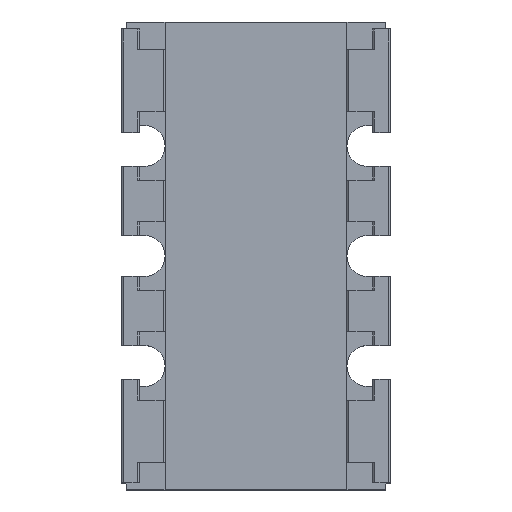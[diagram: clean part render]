
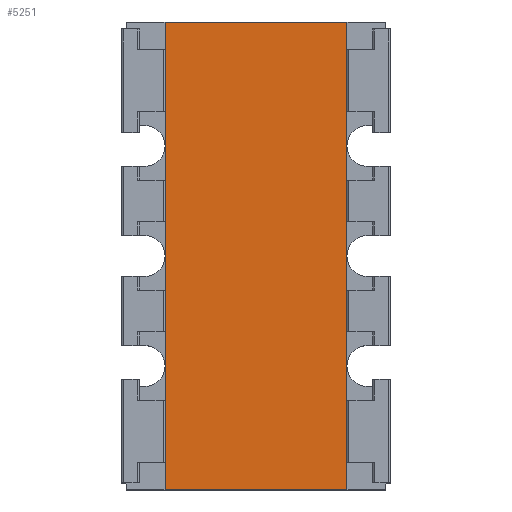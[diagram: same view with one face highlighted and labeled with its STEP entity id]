
A CAD part, top view. The second image highlights one B-rep face of the part: STEP entity #5251.
In plain terms, the highlighted planar face has unit normal (0, 0, 1).
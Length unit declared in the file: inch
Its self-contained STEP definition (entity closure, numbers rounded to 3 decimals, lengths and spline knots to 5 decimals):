
#318 = DIRECTION ( 'NONE',  ( 1., 0., 0. ) ) ;
#490 = AXIS2_PLACEMENT_3D ( 'NONE', #5173, #4133, #6377 ) ;
#889 = VERTEX_POINT ( 'NONE', #5458 ) ;
#943 = CARTESIAN_POINT ( 'NONE',  ( -0.04134, 0.1063, 0.02165 ) ) ;
#977 = LINE ( 'NONE', #5364, #7151 ) ;
#1138 = CARTESIAN_POINT ( 'NONE',  ( 0.04134, 0.1063, 0.02165 ) ) ;
#1200 = CARTESIAN_POINT ( 'NONE',  ( 0.04134, -0.1063, 0.02165 ) ) ;
#1839 = EDGE_CURVE ( 'NONE', #5485, #5847, #2015, .T. ) ;
#1884 = PLANE ( 'NONE',  #490 ) ;
#2015 = LINE ( 'NONE', #943, #5075 ) ;
#2264 = EDGE_CURVE ( 'NONE', #2762, #889, #5908, .T. ) ;
#2762 = VERTEX_POINT ( 'NONE', #4505 ) ;
#3119 = CARTESIAN_POINT ( 'NONE',  ( -0.04134, -0.1063, 0.02165 ) ) ;
#3331 = EDGE_CURVE ( 'NONE', #2762, #5485, #977, .T. ) ;
#3333 = CARTESIAN_POINT ( 'NONE',  ( -0.04134, 0.1063, 0.02165 ) ) ;
#3483 = FACE_OUTER_BOUND ( 'NONE', #5577, .T. ) ;
#3688 = ORIENTED_EDGE ( 'NONE', *, *, #2264, .T. ) ;
#3712 = DIRECTION ( 'NONE',  ( 1., 0., 0. ) ) ;
#3968 = LINE ( 'NONE', #1200, #4259 ) ;
#4133 = DIRECTION ( 'NONE',  ( 0., 0., 1. ) ) ;
#4259 = VECTOR ( 'NONE', #7208, 39.37008 ) ;
#4505 = CARTESIAN_POINT ( 'NONE',  ( -0.04134, -0.1063, 0.02165 ) ) ;
#5075 = VECTOR ( 'NONE', #3712, 39.37008 ) ;
#5173 = CARTESIAN_POINT ( 'NONE',  ( -0.04134, -0.1063, 0.02165 ) ) ;
#5251 = ADVANCED_FACE ( 'NONE', ( #3483 ), #1884, .T. ) ;
#5364 = CARTESIAN_POINT ( 'NONE',  ( -0.04134, -0.1063, 0.02165 ) ) ;
#5458 = CARTESIAN_POINT ( 'NONE',  ( 0.04134, -0.1063, 0.02165 ) ) ;
#5485 = VERTEX_POINT ( 'NONE', #3333 ) ;
#5577 = EDGE_LOOP ( 'NONE', ( #6298, #3688, #6846, #6474 ) ) ;
#5847 = VERTEX_POINT ( 'NONE', #1138 ) ;
#5908 = LINE ( 'NONE', #3119, #6021 ) ;
#6021 = VECTOR ( 'NONE', #318, 39.37008 ) ;
#6298 = ORIENTED_EDGE ( 'NONE', *, *, #3331, .F. ) ;
#6323 = EDGE_CURVE ( 'NONE', #889, #5847, #3968, .T. ) ;
#6377 = DIRECTION ( 'NONE',  ( 1., 0., 0. ) ) ;
#6474 = ORIENTED_EDGE ( 'NONE', *, *, #1839, .F. ) ;
#6503 = DIRECTION ( 'NONE',  ( 0., 1., 0. ) ) ;
#6846 = ORIENTED_EDGE ( 'NONE', *, *, #6323, .T. ) ;
#7151 = VECTOR ( 'NONE', #6503, 39.37008 ) ;
#7208 = DIRECTION ( 'NONE',  ( 0., 1., 0. ) ) ;
